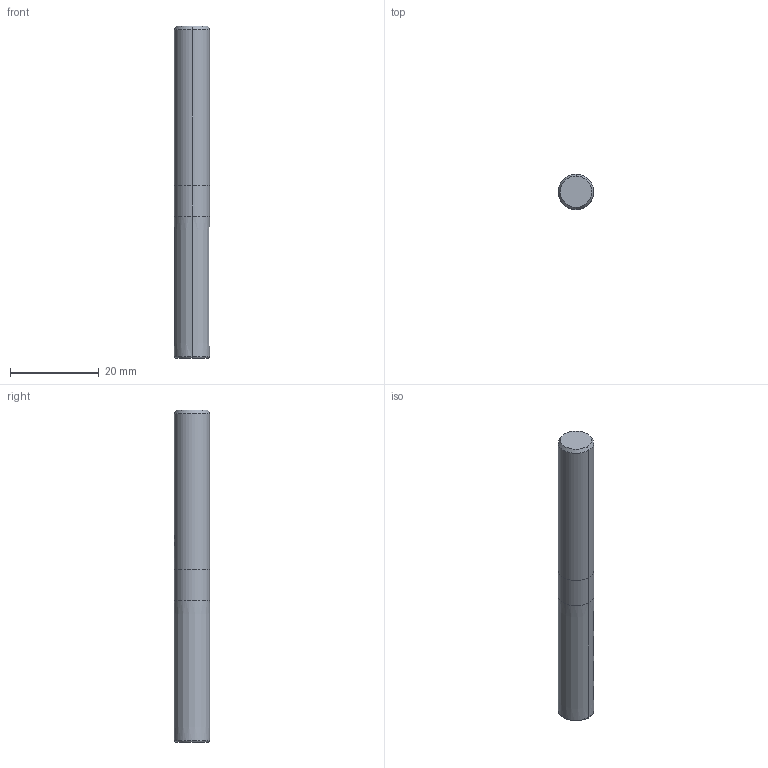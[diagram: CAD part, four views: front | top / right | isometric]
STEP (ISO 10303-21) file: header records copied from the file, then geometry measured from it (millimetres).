
FILE_DESCRIPTION(('no description'),'unknown implementation level');
FILE_NAME('solidn5I7qJ_b8XF4DCstKZY5HoMJeAI_1.STP',' ',('CIMSOURCE GmbH'),('CADClick - KiM GmbH - www.kimweb.de'),'unknown preprocess','ACIS','unknown authorization');
FILE_SCHEMA(('automotive_design'));
Length unit declared in the file: millimetre
Products named in the file (2): 1; 2
Bounding box: 8 x 8 x 75 mm (x, y, z)
Volume: 3763.6 mm3; surface area: 2777.4 mm2
Topology: 2 solids, 2 shells, 34 faces, 83 edges, 54 vertices
Faces by surface type: cylinder 15, plane 13, cone 4, torus 2
Entity records: 2239 total; most frequent: CARTESIAN_POINT 404, DIRECTION 182, STYLED_ITEM 173, PRESENTATION_STYLE_ASSIGNMENT 173, COLOUR_RGB 173, ORIENTED_EDGE 166, EDGE_CURVE 83, CURVE_STYLE 83
